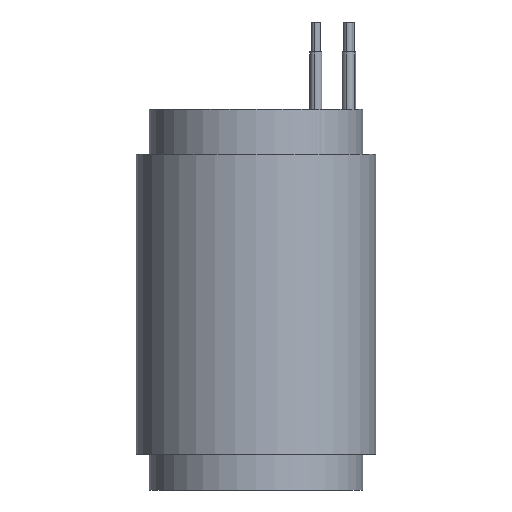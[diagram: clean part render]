
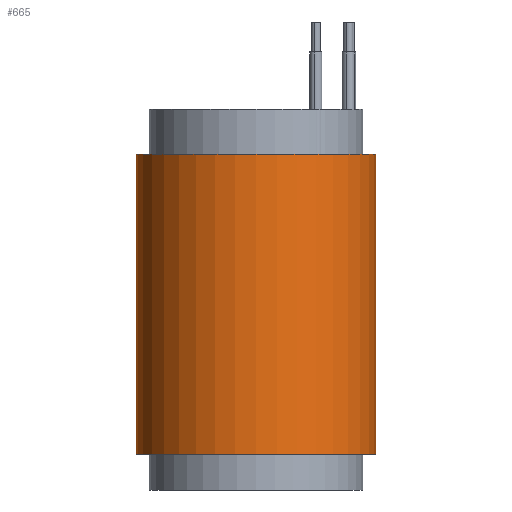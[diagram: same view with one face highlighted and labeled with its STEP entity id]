
A CAD part, front view. The second image highlights one B-rep face of the part: STEP entity #665.
In plain terms, the highlighted cylindrical face has radius 8 mm (diameter 16 mm), a partial arc.
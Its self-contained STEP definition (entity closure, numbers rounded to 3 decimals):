
#121 = DIRECTION ( 'NONE',  ( 0., 0., -1. ) ) ;
#155 = CYLINDRICAL_SURFACE ( 'NONE', #840, 8. ) ;
#223 = EDGE_CURVE ( 'NONE', #1087, #1399, #835, .T. ) ;
#295 = ORIENTED_EDGE ( 'NONE', *, *, #442, .F. ) ;
#399 = CARTESIAN_POINT ( 'NONE',  ( 0., 0., 0. ) ) ;
#442 = EDGE_CURVE ( 'NONE', #1017, #1221, #536, .T. ) ;
#455 = CARTESIAN_POINT ( 'NONE',  ( -8., 0., 0. ) ) ;
#479 = EDGE_CURVE ( 'NONE', #1087, #1017, #1496, .T. ) ;
#485 = DIRECTION ( 'NONE',  ( -1., 0., 0. ) ) ;
#520 = DIRECTION ( 'NONE',  ( 0., 0., -1. ) ) ;
#536 = LINE ( 'NONE', #1032, #1366 ) ;
#537 = ORIENTED_EDGE ( 'NONE', *, *, #223, .T. ) ;
#549 = CIRCLE ( 'NONE', #767, 8. ) ;
#636 = CARTESIAN_POINT ( 'NONE',  ( -8., 0., 20. ) ) ;
#643 = ORIENTED_EDGE ( 'NONE', *, *, #479, .F. ) ;
#665 = ADVANCED_FACE ( 'NONE', ( #867 ), #155, .T. ) ;
#767 = AXIS2_PLACEMENT_3D ( 'NONE', #399, #889, #1351 ) ;
#768 = CARTESIAN_POINT ( 'NONE',  ( 8., 0., 20. ) ) ;
#835 = LINE ( 'NONE', #1298, #861 ) ;
#840 = AXIS2_PLACEMENT_3D ( 'NONE', #1463, #1111, #485 ) ;
#861 = VECTOR ( 'NONE', #121, 1000. ) ;
#865 = ORIENTED_EDGE ( 'NONE', *, *, #1126, .F. ) ;
#867 = FACE_OUTER_BOUND ( 'NONE', #888, .T. ) ;
#888 = EDGE_LOOP ( 'NONE', ( #295, #643, #537, #865 ) ) ;
#889 = DIRECTION ( 'NONE',  ( 0., 0., -1. ) ) ;
#960 = AXIS2_PLACEMENT_3D ( 'NONE', #1049, #1513, #1391 ) ;
#1017 = VERTEX_POINT ( 'NONE', #768 ) ;
#1032 = CARTESIAN_POINT ( 'NONE',  ( 8., 0., 47. ) ) ;
#1049 = CARTESIAN_POINT ( 'NONE',  ( 0., 0., 20. ) ) ;
#1087 = VERTEX_POINT ( 'NONE', #636 ) ;
#1111 = DIRECTION ( 'NONE',  ( 0., 0., -1. ) ) ;
#1126 = EDGE_CURVE ( 'NONE', #1221, #1399, #549, .T. ) ;
#1221 = VERTEX_POINT ( 'NONE', #1363 ) ;
#1298 = CARTESIAN_POINT ( 'NONE',  ( -8., 0., 47. ) ) ;
#1351 = DIRECTION ( 'NONE',  ( -1., 0., 0. ) ) ;
#1363 = CARTESIAN_POINT ( 'NONE',  ( 8., 0., 0. ) ) ;
#1366 = VECTOR ( 'NONE', #520, 1000. ) ;
#1391 = DIRECTION ( 'NONE',  ( 1., 0., 0. ) ) ;
#1399 = VERTEX_POINT ( 'NONE', #455 ) ;
#1463 = CARTESIAN_POINT ( 'NONE',  ( 0., 0., 47. ) ) ;
#1496 = CIRCLE ( 'NONE', #960, 8. ) ;
#1513 = DIRECTION ( 'NONE',  ( 0., 0., 1. ) ) ;
